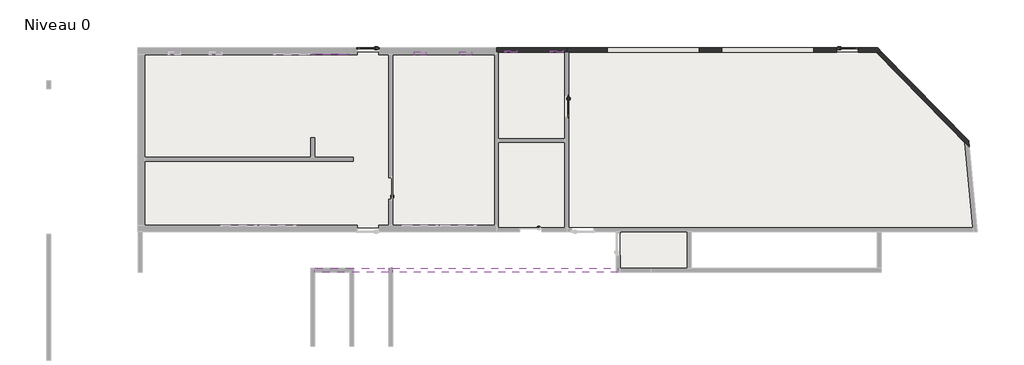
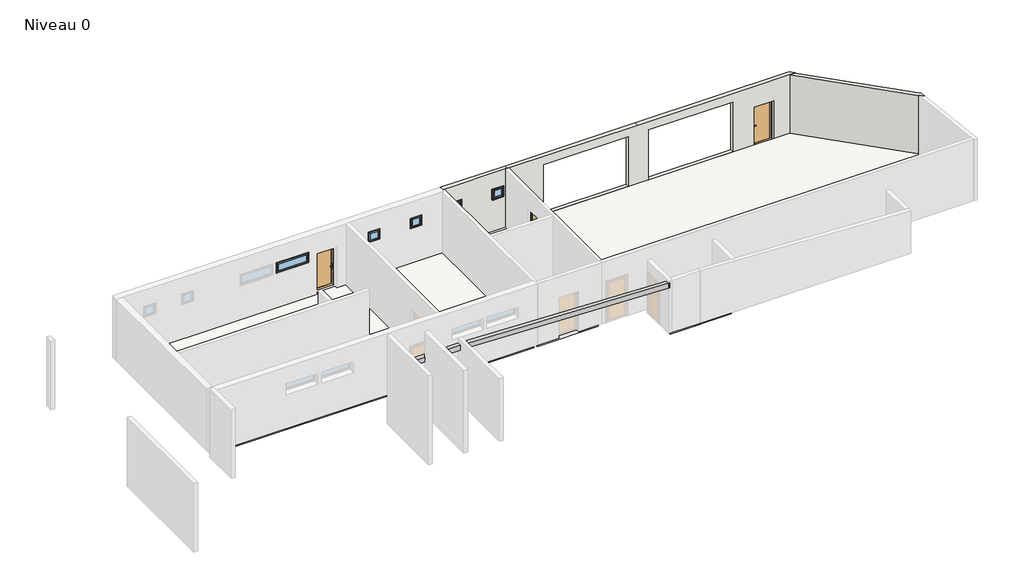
# One storey, part 3 of 3: 5 slabs, 5 windows, 3 beams, 3 doors, 3 walls.
"""IFC4 building model written with IfcOpenShell, lengths in millimetres."""

from ifc_helpers import new_model, si_unit, frame, origin, place, context, project, spatial, polyline, circle_curve, outline, extrude, faceted_brep, transform, mapped, element, save
from ifc_brep_helpers import plane_surface, revolved_surface, advanced_brep
from components import pvc_panneau_plein_0_93_x_2_04_5b0e727a, pvc_panneau_plein_0_93_x_2_04_bf67a00e, pvc_panneau_plein_0_93_x_2_04_155e41a3, rect_1_fixe_878426cb, rect_1_fixe_150x50_26ae5af5, rect_1_fixe_50x50_addd11ee

model = new_model("IFC4")

# Units and contexts
model_context = context("Model", 3, world=origin())
ifc_project = project(units=[si_unit("LENGTHUNIT", "METRE", prefix="MILLI")], contexts=[model_context])

# Site, building, storey
site = spatial("IfcSite", under=ifc_project)
building = spatial("IfcBuilding", under=site)
storey = spatial("IfcBuildingStorey", under=building, Name="Niveau 0", Elevation=0.0)

# Beams
placement = place(None, origin())
element("IfcBeam", 1, ObjectType="Poutre rectangulaire - Béton : 180 x 250 mm", at=placement, inside=storey, context=model_context, shape_type="SweptSolid", body=[
    extrude(outline(polyline([(-250.0, -5043.4293902), (-250.0, 6081.9706098), (-200.0, 6081.9706098), (-200.0, 3360.5386339), (0.0, 3360.5386339), (0.0, 3200.5386339), (-200.0, 3200.5386339), (-200.0, -5043.4293902), (-250.0, -5043.4293902)])), frame((0.0, -4445.8603832, 0.0), z_axis=(0.0, 1.0, 0.0), x_axis=(0.0, 0.0, 1.0)), (0.0, 0.0, 1.0), 180.0),
])
element("IfcBeam", 2, ObjectType="Poutre rectangulaire - Béton : 180 x 250 mm", at=placement, inside=storey, context=model_context, shape_type="SweptSolid", body=[
    extrude(outline(polyline([(2118.1899401, 8579.2442002), (2368.0286696, 8588.2224655), (2721.5063342, -1248.02184), (2471.3449596, -1248.02184), (2118.1899401, 8579.2442002)])), frame((0.0, -6801.6802135, 0.0), z_axis=(0.0, 1.0, 0.0), x_axis=(0.0, 0.0, 1.0)), (0.0, 0.0, 1.0), 180.0),
])
element("IfcBeam", 3, ObjectType="Poutre rectangulaire - Béton : 180 x 250 mm", at=placement, inside=storey, context=model_context, shape_type="SweptSolid", body=[
    extrude(outline(polyline([(-1428.02184, -6620.8814156), (-1428.02184, -6800.0088745), (-4643.958769, -6800.0088745), (-4643.958769, -6620.8814156), (-4650.72184, -6620.8814156), (-4650.72184, -6620.0088745), (-1248.02184, -6620.0088745), (-1248.02184, -6620.8814156), (-1428.02184, -6620.8814156)])), frame((0.0, 0.0, 2470.0), z_axis=(0.0, 0.0, 1.0), x_axis=(1.0, 0.0, 0.0)), (0.0, 0.0, 1.0), 250.0),
])

# Doors
pvc_panneau_plein_0_93_x_2_04_shape = pvc_panneau_plein_0_93_x_2_04_5b0e727a(model_context)
element("IfcDoor", 4, ObjectType="PVC Panneau Plein : 0.93 x 2.04", at=placement, inside=storey, context=model_context, shape_type="MappedRepresentation", body=[
    mapped(pvc_panneau_plein_0_93_x_2_04_shape, transform((6356.7450636, 445.5724103, 150.0), x_axis=(0.0, -1.0, 0.0), y_axis=(1.0, 0.0, 0.0), z_axis=(0.0, 0.0, 1.0))),
])
pvc_panneau_plein_0_93_x_2_04_2_shape = pvc_panneau_plein_0_93_x_2_04_bf67a00e(model_context)
element("IfcDoor", 5, ObjectType="PVC Panneau Plein : 0.93 x 2.04", at=placement, inside=storey, context=model_context, shape_type="MappedRepresentation", body=[
    mapped(pvc_panneau_plein_0_93_x_2_04_2_shape, transform((-2323.958769, 2855.3250142, 0.0), x_axis=(-1.0, 0.0, 0.0), y_axis=(0.0, -1.0, 0.0), z_axis=(0.0, 0.0, 1.0))),
])
pvc_panneau_plein_0_93_x_2_04_3_shape = pvc_panneau_plein_0_93_x_2_04_155e41a3(model_context)
element("IfcDoor", 6, ObjectType="PVC Panneau Plein : 0.93 x 2.04", at=placement, inside=storey, context=model_context, shape_type="MappedRepresentation", body=[
    mapped(pvc_panneau_plein_0_93_x_2_04_3_shape, transform((18620.5386339, 2915.3250142, 0.0), x_axis=(1.0, 0.0, 0.0), y_axis=(0.0, 1.0, 0.0), z_axis=(0.0, 0.0, 1.0))),
])

# Slabs
element("IfcSlab", 7, ObjectType="Béton - 200mm", at=placement, inside=storey, context=model_context, shape_type="Brep", body=[
    faceted_brep([(3200.5386339, 2829.1185844, -200.0), (3200.5386339, -4265.8603832, -200.0), (3200.5386339, -4445.8603832, -200.0), (3200.5386339, -4850.8814156, -200.0), (-12193.958769, -4850.8814156, -200.0), (-12193.958769, 2829.1185844, -200.0), (3200.5386339, 2829.1185844, 0.0), (-12193.958769, 2829.1185844, 0.0), (-12193.958769, -4850.8814156, 0.0), (3200.5386339, -4850.8814156, 0.0), (3200.5386339, -4445.8603832, 0.0), (3200.5386339, -4265.8603832, 0.0)], [[[0, 1, 2, 3, 4, 5]], [[6, 7, 8, 9, 10, 11]], [[3, 2, 1, 0, 6, 11, 10, 9]], [[4, 3, 9, 8]], [[5, 4, 8, 7]], [[0, 5, 7, 6]]]),
])
element("IfcSlab", 8, ObjectType="Béton - 200mm", at=placement, inside=storey, context=model_context, shape_type="Brep", body=[
    faceted_brep([(6280.5386339, -1114.4275897, -200.0), (6280.5386339, -4850.8814156, -200.0), (3360.5386339, -4850.8814156, -200.0), (3360.5386339, -4445.8603832, -200.0), (3360.5386339, -4265.8603832, -200.0), (3360.5386339, -1114.4275897, -200.0), (6280.5386339, -1114.4275897, 0.0), (3360.5386339, -1114.4275897, 0.0), (3360.5386339, -4265.8603832, 0.0), (3360.5386339, -4445.8603832, 0.0), (3360.5386339, -4850.8814156, 0.0), (6280.5386339, -4850.8814156, 0.0)], [[[0, 1, 2, 3, 4, 5]], [[6, 7, 8, 9, 10, 11]], [[1, 0, 6, 11]], [[2, 1, 11, 10]], [[5, 4, 3, 2, 10, 9, 8, 7]], [[0, 5, 7, 6]]]),
])
element("IfcSlab", 9, ObjectType="Béton - 200mm", at=placement, inside=storey, context=model_context, shape_type="SweptSolid", body=[
    extrude(outline(polyline([(6280.5386339, 2829.1185844), (6280.5386339, -954.4275897), (3360.5386339, -954.4275897), (3360.5386339, 2829.1185844), (6280.5386339, 2829.1185844)])), frame((0.0, 0.0, -50.0), z_axis=(0.0, 0.0, 1.0), x_axis=(1.0, 0.0, 0.0)), (0.0, 0.0, 1.0), 200.0),
])
element("IfcSlab", 10, ObjectType="Béton - 200mm", at=placement, inside=storey, context=model_context, shape_type="SweptSolid", body=[
    extrude(outline(polyline([(19861.1399487, 2829.1185844), (23720.1600548, -1117.8250206), (24080.4847304, -4820.3331068), (6460.4847304, -4820.3331068), (6460.4847304, 2829.1185844), (19861.1399487, 2829.1185844)])), frame((0.0, 0.0, -50.0), z_axis=(0.0, 0.0, 1.0), x_axis=(1.0, 0.0, 0.0)), (0.0, 0.0, 1.0), 200.0),
])
element("IfcSlab", 11, ObjectType="Béton - 200mm", at=placement, inside=storey, context=model_context, shape_type="SweptSolid", body=[
    extrude(outline(polyline([(11626.041231, -5030.8814156), (11626.041231, -6620.8814156), (8706.041231, -6620.8814156), (8706.041231, -5030.8814156), (11626.041231, -5030.8814156)])), frame((0.0, 0.0, -370.0), z_axis=(0.0, 0.0, 1.0), x_axis=(1.0, 0.0, 0.0)), (0.0, 0.0, 1.0), 200.0),
])

# Walls
element("IfcWall", 12, ObjectType="Ext. Voile BA 18", at=placement, inside=storey, context=model_context, shape_type="Brep", body=[
    faceted_brep([(6360.5386339, 2829.1185844, 3100.0), (6360.5386339, 2829.1185844, 0.0), (6440.5386339, 2829.1185844, 0.0), (18145.5386339, 2829.1185844, 0.0), (18145.5386339, 2829.1185844, 2050.0), (19095.5386339, 2829.1185844, 2050.0), (19095.5386339, 2829.1185844, 0.0), (19874.4590712, 2829.1185844, 0.0), (20126.1981634, 2829.1185844, 0.0), (20126.1981634, 2829.1185844, 3092.5272383), (20126.1981634, 2829.1185844, 3100.0), (12600.4855864, 2829.1185844, 3100.0), (6440.5386339, 2829.1185844, 3100.0), (8125.5386339, 2829.1185844, 2665.0), (12155.5386339, 2829.1185844, 2665.0), (12155.5386339, 2829.1185844, 150.0), (8125.5386339, 2829.1185844, 150.0), (13125.5386339, 2829.1185844, 2665.0), (17155.5386339, 2829.1185844, 2665.0), (17155.5386339, 2829.1185844, 150.0), (13125.5386339, 2829.1185844, 150.0), (6360.5386339, 3009.1185844, 0.0), (6360.5386339, 3009.1185844, 3100.0), (12600.4855864, 3009.1185844, 3100.0), (19950.2079065, 3009.1185844, 3100.0), (19950.2079065, 3009.1185844, 0.0), (19135.5386339, 3009.1185844, 0.0), (19135.5386339, 3009.1185844, 2090.0), (18105.5386339, 3009.1185844, 2090.0), (18105.5386339, 3009.1185844, 0.0), (12155.5386339, 3009.1185844, 2665.0), (8125.5386339, 3009.1185844, 2665.0), (8125.5386339, 3009.1185844, 150.0), (12155.5386339, 3009.1185844, 150.0), (17155.5386339, 3009.1185844, 2665.0), (13125.5386339, 3009.1185844, 2665.0), (13125.5386339, 3009.1185844, 150.0), (17155.5386339, 3009.1185844, 150.0), (19095.5386339, 2959.1185844, 0.0), (19135.5386339, 2959.1185844, 0.0), (18105.5386339, 2959.1185844, 0.0), (18145.5386339, 2959.1185844, 0.0), (18145.5386339, 2959.1185844, 2050.0), (19095.5386339, 2959.1185844, 2050.0), (18105.5386339, 2959.1185844, 2090.0), (19135.5386339, 2959.1185844, 2090.0)], [[[0, 1, 2, 3, 4, 5, 6, 7, 8, 9, 10, 11, 12], [13, 14, 15, 16], [17, 18, 19, 20]], [[21, 22, 23, 24, 25, 26, 27, 28, 29], [30, 31, 32, 33], [34, 35, 36, 37]], [[25, 8, 7, 6, 38, 39, 26]], [[1, 21, 29, 40, 41, 3, 2]], [[1, 0, 22, 21]], [[10, 9, 8, 25, 24]], [[30, 14, 13, 31]], [[32, 16, 15, 33]], [[16, 32, 31, 13]], [[33, 15, 14, 30]], [[34, 18, 17, 35]], [[36, 20, 19, 37]], [[35, 17, 20, 36]], [[18, 34, 37, 19]], [[42, 43, 5, 4]], [[41, 42, 4, 3]], [[43, 38, 6, 5]], [[28, 44, 40, 29]], [[43, 42, 41, 40, 44, 45, 39, 38]], [[44, 28, 27, 45]], [[39, 45, 27, 26]], [[10, 24, 23, 11]], [[0, 12, 11, 23, 22]]]),
])
element("IfcWall", 13, ObjectType="Ext. Voile BA 18", at=placement, inside=storey, context=model_context, shape_type="Brep", body=[
    faceted_brep([(19874.4590712, 2829.1185844, 0.0), (23743.4784294, -1128.0520946, 0.0), (23944.319839, -1333.4694532, 0.0), (23944.319839, -1333.4694532, 3092.5272383), (19874.4590712, 2829.1185844, 3092.5272383), (20126.1981634, 2829.1185844, 0.0), (20126.1981634, 2829.1185844, 3092.5272383), (23916.4928407, -1047.533759, 3092.5272383), (23916.4928407, -1047.533759, 0.0)], [[[0, 1, 2, 3, 4]], [[5, 6, 7, 8]], [[2, 1, 0, 5, 8]], [[4, 3, 7, 6]], [[0, 4, 6, 5]], [[3, 2, 8, 7]]]),
])
element("IfcWall", 14, ObjectType="Ext. Voile BA 18", at=placement, inside=storey, context=model_context, shape_type="AdvancedBrep", body=[
    advanced_brep(
    [(3280.5386339, 2829.1185844, 0.0), (3360.5386339, 2829.1185844, 0.0), (6280.5386339, 2829.1185844, 0.0), (6360.5386339, 2829.1185844, 0.0), (6360.5386339, 2829.1185844, 3100.0), (6280.5386339, 2829.1185844, 3100.0), (3360.5386339, 2829.1185844, 3100.0), (3280.5386339, 2829.1185844, 3100.0), (6200.5386339, 2829.1185844, 2280.0), (6200.5386339, 2829.1185844, 1750.0), (6180.5386339, 2829.1185844, 1750.0), (6170.5386339, 2829.1185844, 1750.0), (6170.5386339, 2829.1185844, 1720.4790718), (5670.5386339, 2829.1185844, 1720.4790718), (5670.5386339, 2829.1185844, 1750.0), (5660.5386339, 2829.1185844, 1750.0), (5640.5386339, 2829.1185844, 1750.0), (5640.5386339, 2829.1185844, 2280.0), (4200.5386339, 2829.1185844, 2280.0), (4200.5386339, 2829.1185844, 1750.0), (4180.5386339, 2829.1185844, 1750.0), (4170.5386339, 2829.1185844, 1750.0), (4170.5386339, 2829.1185844, 1720.4790718), (3670.5386339, 2829.1185844, 1720.4790718), (3670.5386339, 2829.1185844, 1750.0), (3660.5386339, 2829.1185844, 1750.0), (3640.5386339, 2829.1185844, 1750.0), (3640.5386339, 2829.1185844, 2280.0), (3280.5386339, 3009.1185844, 0.0), (3280.5386339, 3009.1185844, 3100.0), (6360.5386339, 3009.1185844, 3100.0), (6360.5386339, 3009.1185844, 0.0), (5670.5386339, 3009.1185844, 2250.0), (5670.5386339, 3009.1185844, 1700.0), (6170.5386339, 3009.1185844, 1700.0), (6170.5386339, 3009.1185844, 2250.0), (3670.5386339, 3009.1185844, 2250.0), (3670.5386339, 3009.1185844, 1700.0), (4170.5386339, 3009.1185844, 1700.0), (4170.5386339, 3009.1185844, 2250.0), (6200.5386339, 2879.1185844, 2280.0), (5640.5386339, 2879.1185844, 2280.0), (5640.5386339, 2879.1185844, 1750.0), (5660.5386339, 2879.1185844, 1750.0), (5670.5386339, 2879.1185844, 1750.0), (5670.5386339, 2879.1185844, 2250.0), (6170.5386339, 2879.1185844, 2250.0), (6170.5386339, 2879.1185844, 1750.0), (6180.5386339, 2879.1185844, 1750.0), (6200.5386339, 2879.1185844, 1750.0), (5670.5386339, 2834.2090516, 1718.4115298), (6170.5386339, 2834.2090516, 1718.4115298), (4200.5386339, 2879.1185844, 2280.0), (3640.5386339, 2879.1185844, 2280.0), (3640.5386339, 2879.1185844, 1750.0), (3660.5386339, 2879.1185844, 1750.0), (3670.5386339, 2879.1185844, 1750.0), (3670.5386339, 2879.1185844, 2250.0), (4170.5386339, 2879.1185844, 2250.0), (4170.5386339, 2879.1185844, 1750.0), (4180.5386339, 2879.1185844, 1750.0), (4200.5386339, 2879.1185844, 1750.0), (3670.5386339, 2834.2090516, 1718.4115298), (4170.5386339, 2834.2090516, 1718.4115298)],
    [
        (0, 1),
        (1, 2),
        (2, 3),
        (3, 4),
        (4, 5),
        (5, 6),
        (6, 7),
        (7, 0),
        (8, 9),
        (9, 10),
        (10, 11),
        (11, 12),
        (12, 13),
        (13, 14),
        (14, 15),
        (15, 16),
        (16, 17),
        (17, 8),
        (18, 19),
        (19, 20),
        (20, 21),
        (21, 22),
        (22, 23),
        (23, 24),
        (24, 25),
        (25, 26),
        (26, 27),
        (27, 18),
        (28, 29),
        (29, 30),
        (30, 31),
        (31, 28),
        (32, 33),
        (33, 34),
        (34, 35),
        (35, 32),
        (36, 37),
        (37, 38),
        (38, 39),
        (39, 36),
        (0, 28),
        (31, 3),
        (30, 4),
        (7, 29),
        (40, 41),
        (41, 42),
        (42, 43),
        (43, 44),
        (44, 45),
        (45, 46),
        (46, 47),
        (47, 48),
        (48, 49),
        (49, 40),
        (49, 9),
        (8, 40),
        (47, 11),
        (42, 16),
        (14, 44),
        (41, 17),
        (32, 45),
        (13, 50, circle_curve(frame((5670.5386339, 2839.1185844, 1737.7995799), z_axis=(1.0, 0.0, 0.0), x_axis=(0.0, 1.0, 0.0)), 20.0)),
        (50, 33),
        (46, 35),
        (34, 51),
        (51, 12, circle_curve(frame((6170.5386339, 2839.1185844, 1737.7995799), z_axis=(-1.0, 0.0, 0.0), x_axis=(0.0, 1.0, 0.0)), 20.0)),
        (51, 50),
        (52, 53),
        (53, 54),
        (54, 55),
        (55, 56),
        (56, 57),
        (57, 58),
        (58, 59),
        (59, 60),
        (60, 61),
        (61, 52),
        (61, 19),
        (18, 52),
        (59, 21),
        (54, 26),
        (24, 56),
        (53, 27),
        (36, 57),
        (23, 62, circle_curve(frame((3670.5386339, 2839.1185844, 1737.7995799), z_axis=(1.0, 0.0, 0.0), x_axis=(0.0, 1.0, 0.0)), 20.0)),
        (62, 37),
        (58, 39),
        (38, 63),
        (63, 22, circle_curve(frame((4170.5386339, 2839.1185844, 1737.7995799), z_axis=(-1.0, 0.0, 0.0), x_axis=(0.0, 1.0, 0.0)), 20.0)),
        (63, 62),
    ],
    [
        plane_surface(frame((3350.5386339, 2829.1185844, 0.0), z_axis=(0.0, -1.0, 0.0), x_axis=(1.0, 0.0, 0.0))),
        plane_surface(frame((3350.5386339, 3009.1185844, 0.0), z_axis=(0.0, 1.0, 0.0), x_axis=(-1.0, 0.0, 0.0))),
        plane_surface(frame((3280.5386339, 2829.1185844, 0.0), z_axis=(0.0, 0.0, -1.0), x_axis=(0.0, 1.0, 0.0))),
        plane_surface(frame((6360.5386339, 2829.1185844, 0.0), z_axis=(1.0, 0.0, 0.0), x_axis=(0.0, 1.0, 0.0))),
        plane_surface(frame((3280.5386339, 2829.1185844, 3100.0), z_axis=(-1.0, 0.0, 0.0), x_axis=(0.0, 1.0, 0.0))),
        plane_surface(frame((6200.5386339, 2879.1185844, 2280.0), z_axis=(0.0, -1.0, 0.0), x_axis=(0.0, 0.0, -1.0))),
        plane_surface(frame((6200.5386339, 2879.1185844, 2280.0), z_axis=(-1.0, 0.0, 0.0), x_axis=(0.0, -1.0, 0.0))),
        plane_surface(frame((6200.5386339, 2879.1185844, 1750.0), z_axis=(0.0, 0.0, 1.0), x_axis=(0.0, -1.0, 0.0))),
        plane_surface(frame((5640.5386339, 2879.1185844, 1750.0), z_axis=(1.0, 0.0, 0.0), x_axis=(0.0, -1.0, 0.0))),
        plane_surface(frame((5640.5386339, 2879.1185844, 2280.0), z_axis=(0.0, 0.0, -1.0), x_axis=(0.0, -1.0, 0.0))),
        plane_surface(frame((5670.5386339, 2829.1185844, 2250.0), z_axis=(1.0, 0.0, 0.0), x_axis=(0.0, 1.0, 0.0))),
        plane_surface(frame((6170.5386339, 2829.1185844, 1750.0), z_axis=(-1.0, 0.0, 0.0), x_axis=(0.0, 1.0, 0.0))),
        plane_surface(frame((6170.5386339, 2829.1185844, 2250.0), z_axis=(0.0, 0.0, -1.0), x_axis=(0.0, 1.0, 0.0))),
        revolved_surface(polyline([(6170.5386339, 2859.1185844, 1737.7995799), (5670.5386339, 2859.1185844, 1737.7995799)]), (5670.5386339, 2839.1185844, 1737.7995799), (1.0, 0.0, 0.0)),
        plane_surface(frame((6170.5386339, 2834.2090516, 1718.4115298), z_axis=(0.0, 0.10468478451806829, 0.9945054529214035), x_axis=(-1.0, 0.0, 0.0))),
        plane_surface(frame((4200.5386339, 2879.1185844, 2280.0), z_axis=(0.0, -1.0, 0.0), x_axis=(0.0, 0.0, -1.0))),
        plane_surface(frame((4200.5386339, 2879.1185844, 2280.0), z_axis=(-1.0, 0.0, 0.0), x_axis=(0.0, -1.0, 0.0))),
        plane_surface(frame((4200.5386339, 2879.1185844, 1750.0), z_axis=(0.0, 0.0, 1.0), x_axis=(0.0, -1.0, 0.0))),
        plane_surface(frame((3640.5386339, 2879.1185844, 1750.0), z_axis=(1.0, 0.0, 0.0), x_axis=(0.0, -1.0, 0.0))),
        plane_surface(frame((3640.5386339, 2879.1185844, 2280.0), z_axis=(0.0, 0.0, -1.0), x_axis=(0.0, -1.0, 0.0))),
        plane_surface(frame((3670.5386339, 2829.1185844, 2250.0), z_axis=(1.0, 0.0, 0.0), x_axis=(0.0, 1.0, 0.0))),
        plane_surface(frame((4170.5386339, 2829.1185844, 1750.0), z_axis=(-1.0, 0.0, 0.0), x_axis=(0.0, 1.0, 0.0))),
        plane_surface(frame((4170.5386339, 2829.1185844, 2250.0), z_axis=(0.0, 0.0, -1.0), x_axis=(0.0, 1.0, 0.0))),
        revolved_surface(polyline([(4170.5386339, 2859.1185844, 1737.7995799), (3670.5386339, 2859.1185844, 1737.7995799)]), (3670.5386339, 2839.1185844, 1737.7995799), (1.0, 0.0, 0.0)),
        plane_surface(frame((4170.5386339, 2834.2090516, 1718.4115298), z_axis=(0.0, 0.10468478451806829, 0.9945054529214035), x_axis=(-1.0, 0.0, 0.0))),
        plane_surface(frame((3280.5386339, 3009.1185844, 3100.0), z_axis=(0.0, 0.0, 1.0), x_axis=(1.0, 0.0, 0.0))),
    ],
    [
        (0, [[1, 2, 3, 4, 5, 6, 7, 8], [9, 10, 11, 12, 13, 14, 15, 16, 17, 18], [19, 20, 21, 22, 23, 24, 25, 26, 27, 28]]),
        (1, [[29, 30, 31, 32], [33, 34, 35, 36], [37, 38, 39, 40]]),
        (2, [[-3, -2, -1, 41, -32, 42]]),
        (3, [[-4, -42, -31, 43]]),
        (4, [[-8, 44, -29, -41]]),
        (5, [[45, 46, 47, 48, 49, 50, 51, 52, 53, 54]]),
        (6, [[-54, 55, -9, 56]]),
        (7, [[-55, -53, -52, 57, -11, -10]]),
        (7, [[58, -16, -15, 59, -48, -47]]),
        (8, [[-46, 60, -17, -58]]),
        (9, [[-45, -56, -18, -60]]),
        (10, [[61, -49, -59, -14, 62, 63, -33]]),
        (11, [[64, -35, 65, 66, -12, -57, -51]]),
        (12, [[-61, -36, -64, -50]]),
        (13, [[67, -62, -13, -66]]),
        (14, [[-67, -65, -34, -63]]),
        (15, [[68, 69, 70, 71, 72, 73, 74, 75, 76, 77]]),
        (16, [[-77, 78, -19, 79]]),
        (17, [[-78, -76, -75, 80, -21, -20]]),
        (17, [[81, -26, -25, 82, -71, -70]]),
        (18, [[-69, 83, -27, -81]]),
        (19, [[-68, -79, -28, -83]]),
        (20, [[84, -72, -82, -24, 85, 86, -37]]),
        (21, [[87, -39, 88, 89, -22, -80, -74]]),
        (22, [[-84, -40, -87, -73]]),
        (23, [[90, -85, -23, -89]]),
        (24, [[-90, -88, -38, -86]]),
        (25, [[-7, -6, -5, -43, -30, -44]]),
    ],
),
])

# Windows
rect_1_fixe_shape = rect_1_fixe_878426cb(model_context)
element("IfcWindow", 15, ObjectType="Rect 1 fixe : 50x50 ss doublage", at=placement, inside=storey, context=model_context, shape_type="MappedRepresentation", body=[
    mapped(rect_1_fixe_shape, transform((5920.5386339, 2919.1185844, 0.0), x_axis=(1.0, 0.0, 0.0), y_axis=(0.0, 1.0, 0.0), z_axis=(0.0, 0.0, 1.0))),
])
element("IfcWindow", 16, ObjectType="Rect 1 fixe : 50x50 ss doublage", at=placement, inside=storey, context=model_context, shape_type="MappedRepresentation", body=[
    mapped(rect_1_fixe_shape, transform((3920.5386339, 2919.1185844, 0.0), x_axis=(1.0, 0.0, 0.0), y_axis=(0.0, 1.0, 0.0), z_axis=(0.0, 0.0, 1.0))),
])
rect_1_fixe_150x50_shape = rect_1_fixe_150x50_26ae5af5(model_context)
element("IfcWindow", 17, ObjectType="Rect 1 fixe : 150x50", at=placement, inside=storey, context=model_context, shape_type="MappedRepresentation", body=[
    mapped(rect_1_fixe_150x50_shape, transform((-3963.000001, 2859.1185844, 0.0), x_axis=(1.0, 0.0, 0.0), y_axis=(0.0, 1.0, 0.0), z_axis=(0.0, 0.0, 1.0))),
])
rect_1_fixe_50x50_shape = rect_1_fixe_50x50_addd11ee(model_context)
element("IfcWindow", 18, ObjectType="Rect 1 fixe : 50x50", at=placement, inside=storey, context=model_context, shape_type="MappedRepresentation", body=[
    mapped(rect_1_fixe_50x50_shape, transform((-53.958769, 2859.1185844, 0.0), x_axis=(1.0, 0.0, 0.0), y_axis=(0.0, 1.0, 0.0), z_axis=(0.0, 0.0, 1.0))),
])
element("IfcWindow", 19, ObjectType="Rect 1 fixe : 50x50", at=placement, inside=storey, context=model_context, shape_type="MappedRepresentation", body=[
    mapped(rect_1_fixe_50x50_shape, transform((1936.0412311, 2859.1185844, 0.0), x_axis=(1.0, 0.0, 0.0), y_axis=(0.0, 1.0, 0.0), z_axis=(0.0, 0.0, 1.0))),
])

save(model, "model.ifc")
